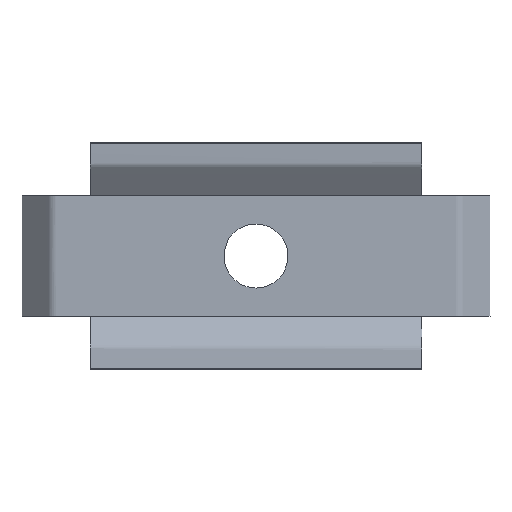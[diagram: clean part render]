
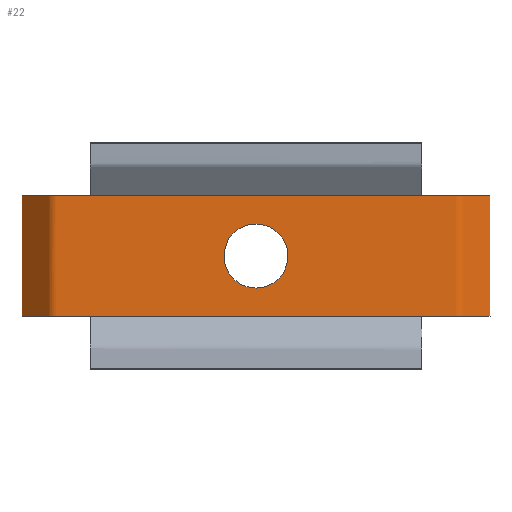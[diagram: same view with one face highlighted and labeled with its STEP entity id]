
A CAD part, top view. The second image highlights one B-rep face of the part: STEP entity #22.
In plain terms, the highlighted free-form (B-spline) face has degree [1, 2] with [2, 11] control points.
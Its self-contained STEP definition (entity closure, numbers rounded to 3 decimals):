
#15=FACE_BOUND('',#70,.T.);
#22=ADVANCED_FACE('',(#45,#15),#380,.T.);
#45=FACE_OUTER_BOUND('',#69,.T.);
#69=EDGE_LOOP('',(#125,#126,#127,#128,#129,#130,#131,#132));
#70=EDGE_LOOP('',(#133,#134));
#125=ORIENTED_EDGE('',*,*,#237,.F.);
#126=ORIENTED_EDGE('',*,*,#238,.F.);
#127=ORIENTED_EDGE('',*,*,#257,.T.);
#128=ORIENTED_EDGE('',*,*,#252,.T.);
#129=ORIENTED_EDGE('',*,*,#236,.F.);
#130=ORIENTED_EDGE('',*,*,#250,.F.);
#131=ORIENTED_EDGE('',*,*,#259,.F.);
#132=ORIENTED_EDGE('',*,*,#235,.F.);
#133=ORIENTED_EDGE('',*,*,#271,.F.);
#134=ORIENTED_EDGE('',*,*,#267,.F.);
#235=EDGE_CURVE('',#361,#360,#324,.T.);
#236=EDGE_CURVE('',#362,#363,#282,.T.);
#237=EDGE_CURVE('',#364,#361,#283,.T.);
#238=EDGE_CURVE('',#359,#364,#325,.T.);
#250=EDGE_CURVE('',#369,#362,#326,.T.);
#252=EDGE_CURVE('',#370,#363,#327,.T.);
#257=EDGE_CURVE('',#359,#370,#299,.T.);
#259=EDGE_CURVE('',#360,#369,#300,.T.);
#267=EDGE_CURVE('',#374,#376,#335,.T.);
#271=EDGE_CURVE('',#376,#374,#337,.T.);
#282=B_SPLINE_CURVE_WITH_KNOTS('',1,(#795,#796),.UNSPECIFIED.,.F.,.F.,(2,
2),(0.,16.005),.UNSPECIFIED.);
#283=B_SPLINE_CURVE_WITH_KNOTS('',1,(#797,#798),.UNSPECIFIED.,.F.,.F.,(2,
2),(-16.005,0.),.UNSPECIFIED.);
#299=B_SPLINE_CURVE_WITH_KNOTS('',1,(#859,#860),.UNSPECIFIED.,.F.,.F.,(2,
2),(0.,44.),.UNSPECIFIED.);
#300=B_SPLINE_CURVE_WITH_KNOTS('',1,(#868,#869),.UNSPECIFIED.,.F.,.F.,(2,
2),(0.,44.),.UNSPECIFIED.);
#324=(
BOUNDED_CURVE()
B_SPLINE_CURVE(2,(#788,#789,#790,#791,#792,#793,#794),.UNSPECIFIED.,.F.,
 .F.)
B_SPLINE_CURVE_WITH_KNOTS((3,2,2,3),(-5.551,0.,1.178,
5.678),.UNSPECIFIED.)
CURVE()
GEOMETRIC_REPRESENTATION_ITEM()
RATIONAL_B_SPLINE_CURVE((1.,1.,1.,0.924,1.,1.,1.))
REPRESENTATION_ITEM('')
);
#325=(
BOUNDED_CURVE()
B_SPLINE_CURVE(2,(#799,#800,#801,#802,#803,#804,#805),.UNSPECIFIED.,.F.,
 .F.)
B_SPLINE_CURVE_WITH_KNOTS((3,2,2,3),(-5.678,-1.178,
0.,5.551),.UNSPECIFIED.)
CURVE()
GEOMETRIC_REPRESENTATION_ITEM()
RATIONAL_B_SPLINE_CURVE((1.,1.,1.,0.924,1.,1.,1.))
REPRESENTATION_ITEM('')
);
#326=(
BOUNDED_CURVE()
B_SPLINE_CURVE(2,(#828,#829,#830,#831,#832,#833,#834),.UNSPECIFIED.,.F.,
 .F.)
B_SPLINE_CURVE_WITH_KNOTS((3,2,2,3),(-4.5,0.,1.178,6.729),
 .UNSPECIFIED.)
CURVE()
GEOMETRIC_REPRESENTATION_ITEM()
RATIONAL_B_SPLINE_CURVE((1.,1.,1.,0.924,1.,1.,1.))
REPRESENTATION_ITEM('')
);
#327=(
BOUNDED_CURVE()
B_SPLINE_CURVE(2,(#837,#838,#839,#840,#841,#842,#843),.UNSPECIFIED.,.F.,
 .F.)
B_SPLINE_CURVE_WITH_KNOTS((3,2,2,3),(-4.5,0.,1.178,6.729),
 .UNSPECIFIED.)
CURVE()
GEOMETRIC_REPRESENTATION_ITEM()
RATIONAL_B_SPLINE_CURVE((1.,1.,1.,0.924,1.,1.,1.))
REPRESENTATION_ITEM('')
);
#335=(
BOUNDED_CURVE()
B_SPLINE_CURVE(2,(#895,#896,#897,#898,#899),.UNSPECIFIED.,.F.,.F.)
B_SPLINE_CURVE_WITH_KNOTS((3,2,3),(0.,6.675,13.35),
 .UNSPECIFIED.)
CURVE()
GEOMETRIC_REPRESENTATION_ITEM()
RATIONAL_B_SPLINE_CURVE((1.,0.707,1.,0.707,1.))
REPRESENTATION_ITEM('')
);
#337=(
BOUNDED_CURVE()
B_SPLINE_CURVE(2,(#909,#910,#911,#912,#913),.UNSPECIFIED.,.F.,.F.)
B_SPLINE_CURVE_WITH_KNOTS((3,2,3),(13.35,20.025,26.7),
 .UNSPECIFIED.)
CURVE()
GEOMETRIC_REPRESENTATION_ITEM()
RATIONAL_B_SPLINE_CURVE((1.,0.707,1.,0.707,1.))
REPRESENTATION_ITEM('')
);
#359=VERTEX_POINT('',#654);
#360=VERTEX_POINT('',#655);
#361=VERTEX_POINT('',#656);
#362=VERTEX_POINT('',#657);
#363=VERTEX_POINT('',#658);
#364=VERTEX_POINT('',#659);
#369=VERTEX_POINT('',#664);
#370=VERTEX_POINT('',#665);
#374=VERTEX_POINT('',#669);
#376=VERTEX_POINT('',#671);
#380=(
BOUNDED_SURFACE()
B_SPLINE_SURFACE(1,2,((#569,#570,#571,#572,#573,#574,#575,#576,#577,#578,
#579),(#580,#581,#582,#583,#584,#585,#586,#587,#588,#589,#590)),
 .UNSPECIFIED.,.F.,.F.,.F.)
B_SPLINE_SURFACE_WITH_KNOTS((2,2),(3,2,2,2,2,3),(0.,16.005),(-5.551,
0.,1.178,54.178,55.356,60.907),
 .UNSPECIFIED.)
GEOMETRIC_REPRESENTATION_ITEM()
RATIONAL_B_SPLINE_SURFACE(((1.,1.,1.,0.924,1.,1.,1.,0.924,
1.,1.,1.),(1.,1.,1.,0.924,1.,1.,1.,0.924,1.,1.,
1.)))
REPRESENTATION_ITEM('')
SURFACE()
);
#569=CARTESIAN_POINT('',(-31.101,8.007,-2.475));
#570=CARTESIAN_POINT('',(-29.333,8.007,-0.707));
#571=CARTESIAN_POINT('',(-27.566,8.007,1.061));
#572=CARTESIAN_POINT('',(-27.126,8.007,1.5));
#573=CARTESIAN_POINT('',(-26.505,8.007,1.5));
#574=CARTESIAN_POINT('',(-0.005,8.007,1.5));
#575=CARTESIAN_POINT('',(26.495,8.007,1.5));
#576=CARTESIAN_POINT('',(27.116,8.007,1.5));
#577=CARTESIAN_POINT('',(27.556,8.007,1.061));
#578=CARTESIAN_POINT('',(29.324,8.007,-0.707));
#579=CARTESIAN_POINT('',(31.091,8.007,-2.475));
#580=CARTESIAN_POINT('',(-31.101,-7.998,-2.475));
#581=CARTESIAN_POINT('',(-29.333,-7.998,-0.707));
#582=CARTESIAN_POINT('',(-27.566,-7.998,1.061));
#583=CARTESIAN_POINT('',(-27.126,-7.998,1.5));
#584=CARTESIAN_POINT('',(-26.505,-7.998,1.5));
#585=CARTESIAN_POINT('',(-0.005,-7.998,1.5));
#586=CARTESIAN_POINT('',(26.495,-7.998,1.5));
#587=CARTESIAN_POINT('',(27.116,-7.998,1.5));
#588=CARTESIAN_POINT('',(27.556,-7.998,1.061));
#589=CARTESIAN_POINT('',(29.324,-7.998,-0.707));
#590=CARTESIAN_POINT('',(31.091,-7.998,-2.475));
#654=CARTESIAN_POINT('',(-22.005,-7.998,1.501));
#655=CARTESIAN_POINT('',(-22.005,8.007,1.501));
#656=CARTESIAN_POINT('',(-31.101,8.007,-2.475));
#657=CARTESIAN_POINT('',(31.091,8.007,-2.475));
#658=CARTESIAN_POINT('',(31.091,-7.998,-2.475));
#659=CARTESIAN_POINT('',(-31.101,-7.998,-2.475));
#664=CARTESIAN_POINT('',(21.995,8.007,1.501));
#665=CARTESIAN_POINT('',(21.995,-7.998,1.501));
#669=CARTESIAN_POINT('',(-0.005,4.255,1.5));
#671=CARTESIAN_POINT('',(-0.005,-4.245,1.5));
#788=CARTESIAN_POINT('',(-31.101,8.007,-2.475));
#789=CARTESIAN_POINT('',(-29.333,8.007,-0.707));
#790=CARTESIAN_POINT('',(-27.566,8.007,1.061));
#791=CARTESIAN_POINT('',(-27.126,8.007,1.5));
#792=CARTESIAN_POINT('',(-26.505,8.007,1.5));
#793=CARTESIAN_POINT('',(-24.255,8.007,1.501));
#794=CARTESIAN_POINT('',(-22.005,8.007,1.501));
#795=CARTESIAN_POINT('',(31.091,8.007,-2.475));
#796=CARTESIAN_POINT('',(31.091,-7.998,-2.475));
#797=CARTESIAN_POINT('',(-31.101,-7.998,-2.475));
#798=CARTESIAN_POINT('',(-31.101,8.007,-2.475));
#799=CARTESIAN_POINT('',(-22.005,-7.998,1.501));
#800=CARTESIAN_POINT('',(-24.255,-7.998,1.501));
#801=CARTESIAN_POINT('',(-26.505,-7.998,1.5));
#802=CARTESIAN_POINT('',(-27.126,-7.998,1.5));
#803=CARTESIAN_POINT('',(-27.566,-7.998,1.061));
#804=CARTESIAN_POINT('',(-29.333,-7.998,-0.707));
#805=CARTESIAN_POINT('',(-31.101,-7.998,-2.475));
#828=CARTESIAN_POINT('',(21.995,8.007,1.501));
#829=CARTESIAN_POINT('',(24.245,8.007,1.501));
#830=CARTESIAN_POINT('',(26.495,8.007,1.5));
#831=CARTESIAN_POINT('',(27.116,8.007,1.5));
#832=CARTESIAN_POINT('',(27.556,8.007,1.061));
#833=CARTESIAN_POINT('',(29.324,8.007,-0.707));
#834=CARTESIAN_POINT('',(31.091,8.007,-2.475));
#837=CARTESIAN_POINT('',(21.995,-7.998,1.501));
#838=CARTESIAN_POINT('',(24.245,-7.998,1.501));
#839=CARTESIAN_POINT('',(26.495,-7.998,1.5));
#840=CARTESIAN_POINT('',(27.116,-7.998,1.5));
#841=CARTESIAN_POINT('',(27.556,-7.998,1.061));
#842=CARTESIAN_POINT('',(29.324,-7.998,-0.707));
#843=CARTESIAN_POINT('',(31.091,-7.998,-2.475));
#859=CARTESIAN_POINT('',(-22.005,-7.998,1.501));
#860=CARTESIAN_POINT('',(21.995,-7.998,1.501));
#868=CARTESIAN_POINT('',(-22.005,8.007,1.501));
#869=CARTESIAN_POINT('',(21.995,8.007,1.501));
#895=CARTESIAN_POINT('',(-0.005,4.255,1.5));
#896=CARTESIAN_POINT('',(-4.255,4.255,1.5));
#897=CARTESIAN_POINT('',(-4.255,0.005,1.5));
#898=CARTESIAN_POINT('',(-4.255,-4.245,1.5));
#899=CARTESIAN_POINT('',(-0.005,-4.245,1.5));
#909=CARTESIAN_POINT('',(-0.005,-4.245,1.5));
#910=CARTESIAN_POINT('',(4.245,-4.245,1.5));
#911=CARTESIAN_POINT('',(4.245,0.005,1.5));
#912=CARTESIAN_POINT('',(4.245,4.255,1.5));
#913=CARTESIAN_POINT('',(-0.005,4.255,1.5));
